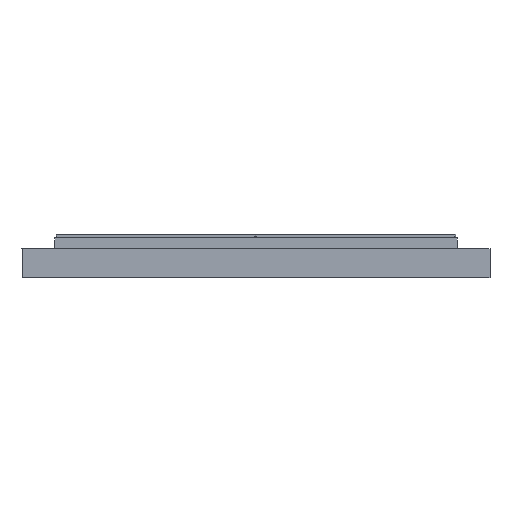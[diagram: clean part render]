
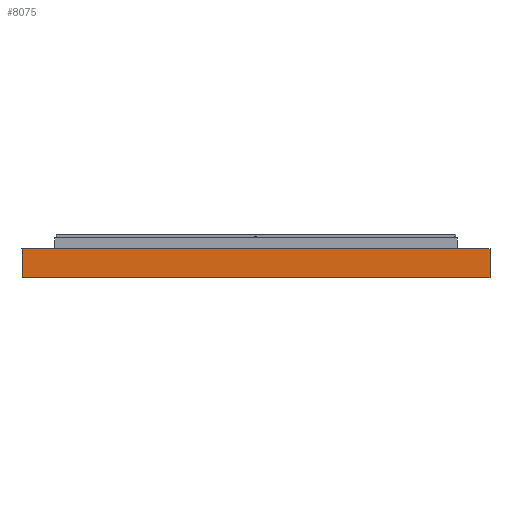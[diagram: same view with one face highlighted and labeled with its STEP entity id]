
A CAD part, front view. The second image highlights one B-rep face of the part: STEP entity #8075.
In plain terms, the highlighted planar face has unit normal (-0.035, -0.999, 0).
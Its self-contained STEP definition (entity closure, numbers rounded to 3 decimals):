
#255 = CARTESIAN_POINT ( 'NONE',  ( 65., 549.755, 8. ) ) ;
#783 = VERTEX_POINT ( 'NONE', #9190 ) ;
#1039 = EDGE_CURVE ( 'NONE', #7535, #4343, #11781, .T. ) ;
#1643 = PLANE ( 'NONE',  #2583 ) ;
#2038 = VECTOR ( 'NONE', #6828, 1000. ) ;
#2181 = VECTOR ( 'NONE', #4106, 1000. ) ;
#2583 = AXIS2_PLACEMENT_3D ( 'NONE', #3614, #6345, #10362 ) ;
#2730 = ORIENTED_EDGE ( 'NONE', *, *, #6376, .T. ) ;
#3022 = DIRECTION ( 'NONE',  ( -0.999, 0.035, 0. ) ) ;
#3551 = FACE_OUTER_BOUND ( 'NONE', #5892, .T. ) ;
#3614 = CARTESIAN_POINT ( 'NONE',  ( 65., 549.755, 8. ) ) ;
#3762 = LINE ( 'NONE', #9395, #2181 ) ;
#3988 = LINE ( 'NONE', #6782, #7895 ) ;
#4106 = DIRECTION ( 'NONE',  ( 0., 0., 1. ) ) ;
#4343 = VERTEX_POINT ( 'NONE', #11174 ) ;
#4941 = LINE ( 'NONE', #255, #5178 ) ;
#5178 = VECTOR ( 'NONE', #3022, 1000. ) ;
#5821 = ORIENTED_EDGE ( 'NONE', *, *, #6806, .F. ) ;
#5892 = EDGE_LOOP ( 'NONE', ( #5821, #7956, #9563, #2730 ) ) ;
#6079 = CARTESIAN_POINT ( 'NONE',  ( 64.5, 549.773, 8. ) ) ;
#6345 = DIRECTION ( 'NONE',  ( -0.035, -0.999, 0. ) ) ;
#6376 = EDGE_CURVE ( 'NONE', #7535, #783, #4941, .T. ) ;
#6782 = CARTESIAN_POINT ( 'NONE',  ( 65., 549.755, 0. ) ) ;
#6806 = EDGE_CURVE ( 'NONE', #10169, #783, #3762, .T. ) ;
#6828 = DIRECTION ( 'NONE',  ( 0., 0., -1. ) ) ;
#7535 = VERTEX_POINT ( 'NONE', #8184 ) ;
#7639 = DIRECTION ( 'NONE',  ( -0.999, 0.035, 0. ) ) ;
#7895 = VECTOR ( 'NONE', #7639, 1000. ) ;
#7956 = ORIENTED_EDGE ( 'NONE', *, *, #11609, .F. ) ;
#8075 = ADVANCED_FACE ( 'NONE', ( #3551 ), #1643, .T. ) ;
#8184 = CARTESIAN_POINT ( 'NONE',  ( 64.5, 549.773, 8. ) ) ;
#9190 = CARTESIAN_POINT ( 'NONE',  ( -64.5, 554.277, 8. ) ) ;
#9395 = CARTESIAN_POINT ( 'NONE',  ( -64.5, 554.277, 8. ) ) ;
#9455 = CARTESIAN_POINT ( 'NONE',  ( -64.5, 554.277, 0. ) ) ;
#9563 = ORIENTED_EDGE ( 'NONE', *, *, #1039, .F. ) ;
#10169 = VERTEX_POINT ( 'NONE', #9455 ) ;
#10362 = DIRECTION ( 'NONE',  ( 0., 0., -1. ) ) ;
#11174 = CARTESIAN_POINT ( 'NONE',  ( 64.5, 549.773, 0. ) ) ;
#11609 = EDGE_CURVE ( 'NONE', #4343, #10169, #3988, .T. ) ;
#11781 = LINE ( 'NONE', #6079, #2038 ) ;
